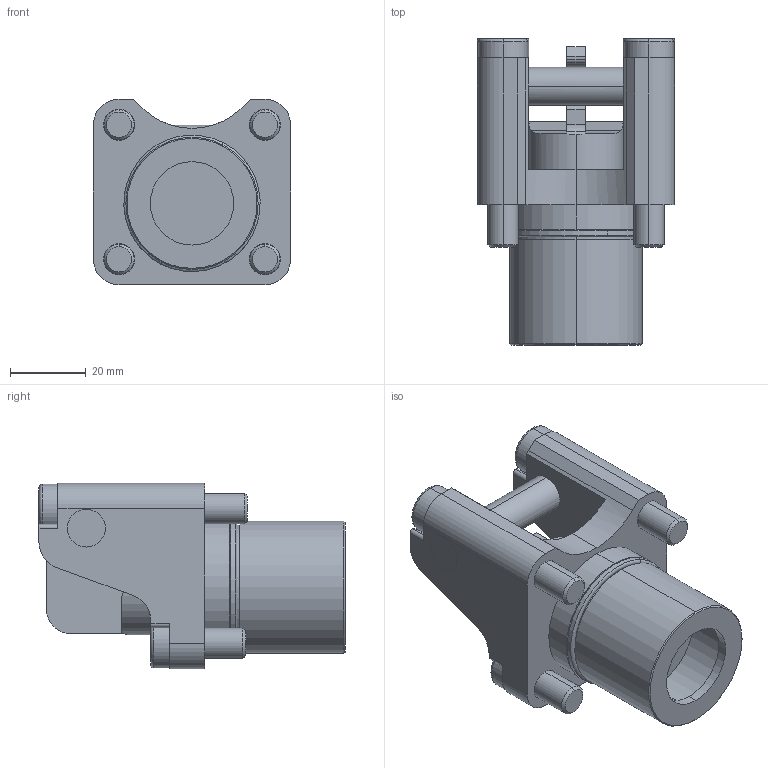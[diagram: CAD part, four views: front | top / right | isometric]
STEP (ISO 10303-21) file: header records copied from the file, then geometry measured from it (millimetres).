
FILE_DESCRIPTION (( 'STEP AP203' ), '1' );
FILE_NAME ('101695_Drehhebelspanner.STEP', '2013-04-18T08:35:40', ( '' ), ( '' ), 'SwSTEP 2.0', 'SolidWorks 2010', '' );
FILE_SCHEMA (( 'CONFIG_CONTROL_DESIGN' ));
Length unit declared in the file: millimetre
Products named in the file (7): 101695_Drehhebelspanner; 101695_Gehäuse_Default; 101695_Kolben; 101695_Lagerbolzen_Default; 101695_O-Ring_Default; 101695_Zylinderschraube_1_Default; 101695_Zylinderschraube_2_Default
Assembly tree (8 placements, depth 2):
  101695_Drehhebelspanner
    101695_Zylinderschraube_1_Default  x2
    101695_Zylinderschraube_2_Default  x2
    101695_O-Ring_Default
    101695_Kolben
    101695_Gehäuse_Default
    101695_Lagerbolzen_Default
Bounding box: 52 x 80.75 x 49 mm (x, y, z)
Volume: 84181.3 mm3; surface area: 35098.5 mm2
Topology: 8 solids, 8 shells, 240 faces, 589 edges, 364 vertices
Faces by surface type: plane 108, cylinder 90, torus 22, cone 20
Entity records: 6846 total; most frequent: CARTESIAN_POINT 1412, DIRECTION 1043, ORIENTED_EDGE 938, EDGE_CURVE 469, AXIS2_PLACEMENT_3D 401, VERTEX_POINT 298, LINE 241, VECTOR 241
